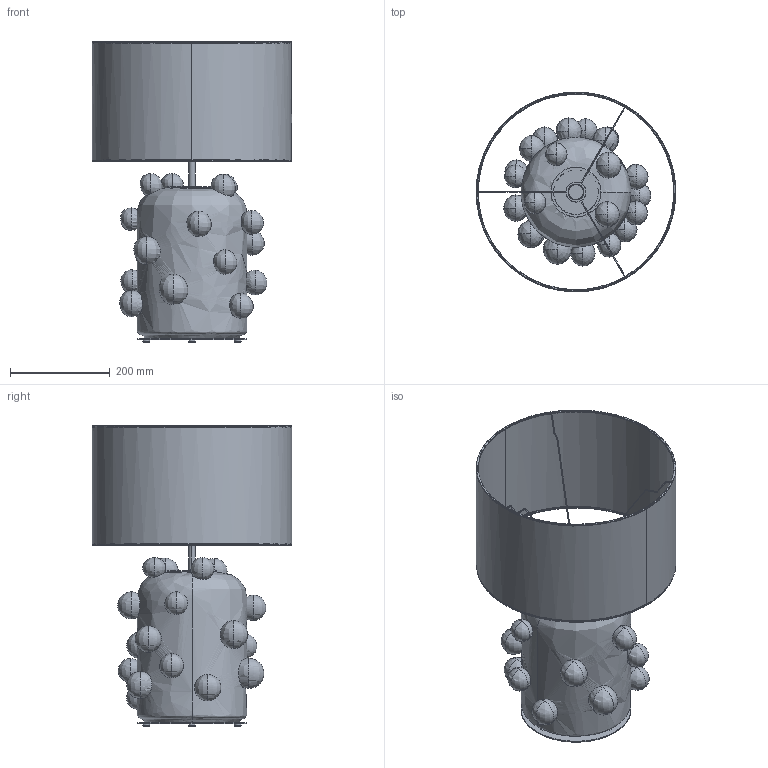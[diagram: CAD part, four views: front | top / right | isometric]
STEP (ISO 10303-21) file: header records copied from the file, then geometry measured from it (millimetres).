
FILE_DESCRIPTION (( 'STEP AP214' ), '1' );
FILE_NAME ('SIMOD_NAC154.STEP', '2026-06-22T07:09:38', ( '' ), ( '' ), 'SwSTEP 2.0', 'SolidWorks 2023', '' );
FILE_SCHEMA (( 'AUTOMOTIVE_DESIGN' ));
Length unit declared in the file: millimetre
Products named in the file (5): Base 9; SIMOD_NAC154; Shade; base 22; ceramic base SIMOD
Assembly tree (4 placements, depth 2):
  SIMOD_NAC154
    ceramic base SIMOD
    Base 9
    Shade
    base 22
Bounding box: 399.71 x 400 x 602 mm (x, y, z)
Volume: 2231940.4 mm3; surface area: 1352343.3 mm2
Topology: 3 solids, 25 shells, 301 faces, 957 edges, 589 vertices
Faces by surface type: bspline 273, cylinder 12, plane 8, torus 8
Entity records: 29699 total; most frequent: CARTESIAN_POINT 24801, ORIENTED_EDGE 1462, EDGE_CURVE 831, VERTEX_POINT 591, B_SPLINE_CURVE_WITH_KNOTS 467, EDGE_LOOP 355, FACE_OUTER_BOUND 301, ADVANCED_FACE 301
